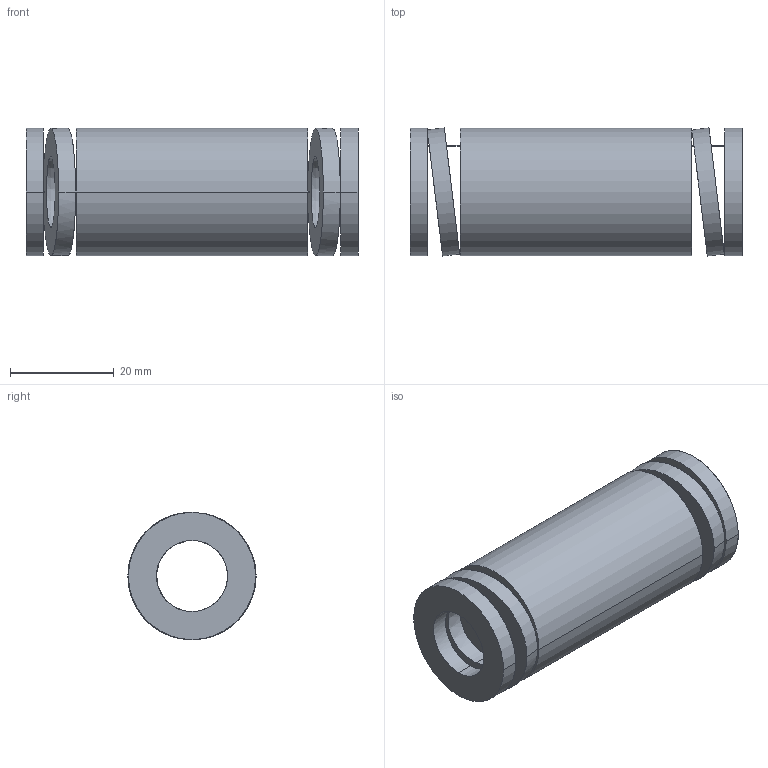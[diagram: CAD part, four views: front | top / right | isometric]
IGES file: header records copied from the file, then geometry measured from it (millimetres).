
Start section: START RECORD GO HERE.
Global section: file name: 392-B25-064.igs; native system: DASSAULT SYSTEMES CATIA V5 R20 - www.3ds.com; preprocessor: CATIA Version 5 Release 20 ; author: Utente; organization: NB04-ASUS; date: 20210813.094846; units: millimetre
Bounding box: 64 x 24.72 x 24.5 mm (x, y, z)
Surface area: 10183.4 mm2 (no closed solid volume)
Topology: 0 solids, 0 shells, 38 faces, 184 edges, 184 vertices
Faces by surface type: revolution 28, plane 10
